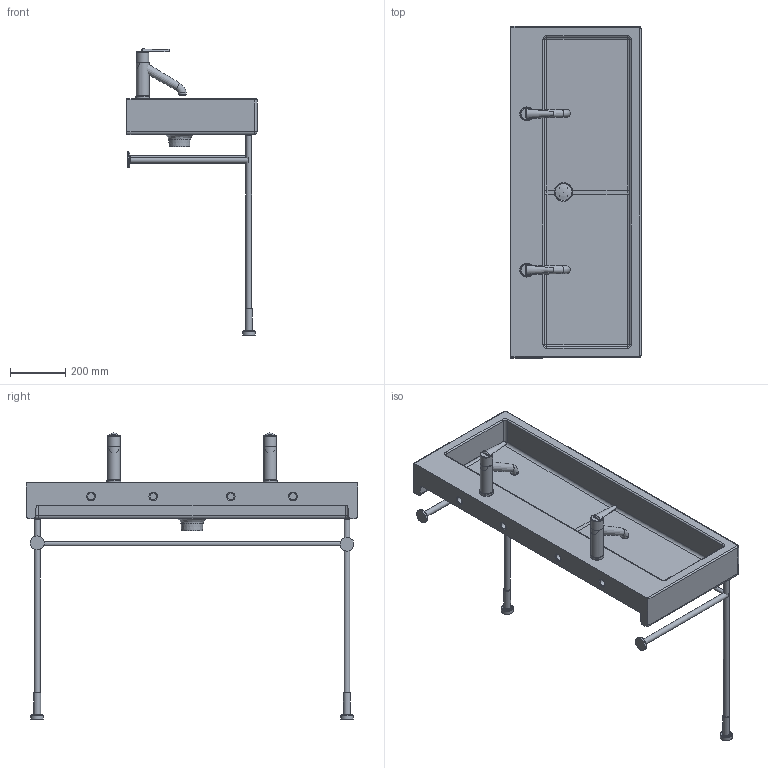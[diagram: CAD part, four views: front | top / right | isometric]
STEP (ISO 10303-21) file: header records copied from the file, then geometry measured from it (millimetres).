
FILE_DESCRIPTION((''),'2;1');
FILE_NAME('C:\Dokumente und Einstellungen\Andreas\Desktop\DURAVIT NEWS 09\Zusatz_Ergänzungen\045412 VERO 3d\stp\045412_2_0030741.stp','2010-08-10T13:30:43',('Andreas'),(''),'Autodesk Inventor 2009','Autodesk Inventor 2009','');
FILE_SCHEMA(('AUTOMOTIVE_DESIGN { 1 0 10303 214 1 1 1 1 }'));
Length unit declared in the file: millimetre
Products named in the file (14): 045412_2_0030741; Gestell 0030741; rohr720; rohr470; rohr1120; 045412_2; 045412_2d; Stopfen; Kelch; Hebel150vorlage; hebel1; Hebel1_150neu; Neoperl; Griff
Assembly tree (16 placements, depth 4):
  045412_2_0030741
    Gestell 0030741
      rohr720  x2
      rohr470  x2
      rohr1120
    045412_2
      045412_2d
      Stopfen
      Kelch
      Hebel150vorlage  x2
        hebel1
        Hebel1_150neu
        Neoperl
        Griff
Bounding box: 470 x 1200 x 1034.3 mm (x, y, z)
Volume: 26059690.2 mm3; surface area: 2376838.6 mm2
Topology: 16 solids, 16 shells, 215 faces, 454 edges, 279 vertices
Faces by surface type: cylinder 73, plane 72, bspline 33, torus 24, cone 11, sphere 2
Full cylindrical faces by diameter (mm): 15 x1, 16 x2, 20 x2, 21 x4, 25 x7, 35 x4, 42 x1, 44 x1, 45 x4, 46 x2, 50 x4, 52 x1, 60 x1
Entity records: 8863 total; most frequent: CARTESIAN_POINT 4835, DIRECTION 815, ORIENTED_EDGE 672, AXIS2_PLACEMENT_3D 350, EDGE_CURVE 336, EDGE_LOOP 242, VERTEX_POINT 232, FACE_OUTER_BOUND 174
